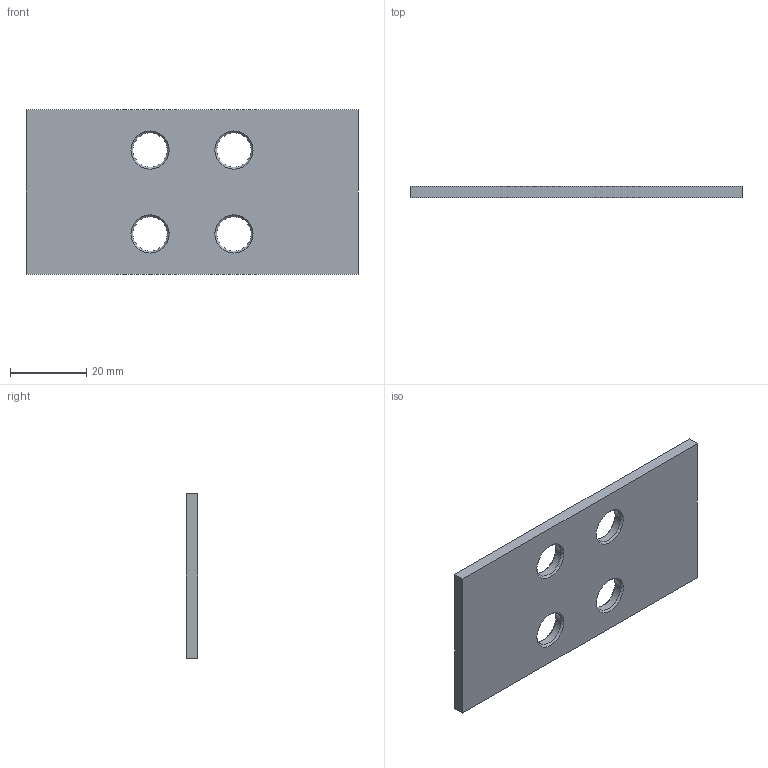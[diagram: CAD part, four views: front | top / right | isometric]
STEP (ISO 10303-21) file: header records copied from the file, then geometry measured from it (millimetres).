
FILE_DESCRIPTION((''),'2;1');
FILE_NAME('FRCK31-003','2017-05-10T',('anacleto.m'),(''),'CREO PARAMETRIC BY PTC INC, 2016050','CREO PARAMETRIC BY PTC INC, 2016050','');
FILE_SCHEMA(('CONFIG_CONTROL_DESIGN'));
Length unit declared in the file: millimetre
Products named in the file (1): FRCK31-003
Bounding box: 87 x 3 x 43 mm (x, y, z)
Volume: 10430.3 mm3; surface area: 8028.7 mm2
Topology: 1 solids, 1 shells, 30 faces, 68 edges, 40 vertices
Faces by surface type: cone 16, cylinder 8, plane 6
Entity records: 890 total; most frequent: DIRECTION 160, CARTESIAN_POINT 138, ORIENTED_EDGE 136, EDGE_CURVE 68, AXIS2_PLACEMENT_3D 62, VERTEX_POINT 40, EDGE_LOOP 38, VECTOR 36
